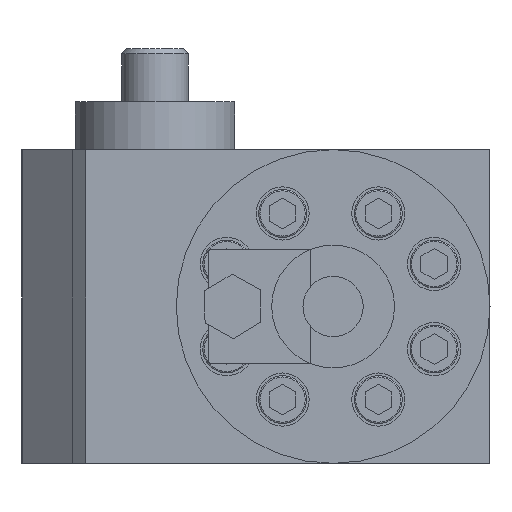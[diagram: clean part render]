
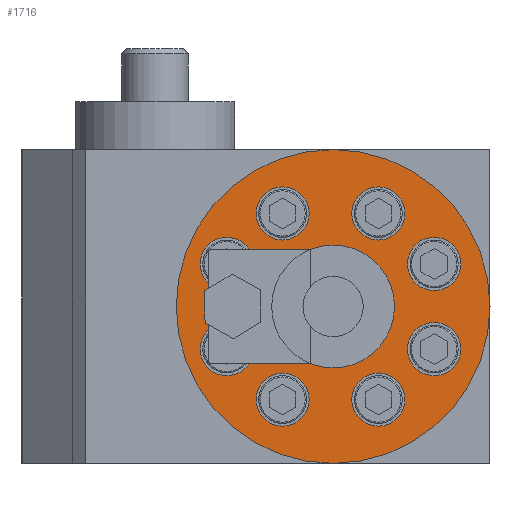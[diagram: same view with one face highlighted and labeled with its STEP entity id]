
A CAD part, left-side view. The second image highlights one B-rep face of the part: STEP entity #1716.
In plain terms, the highlighted planar face has unit normal (-1, 0, 0).
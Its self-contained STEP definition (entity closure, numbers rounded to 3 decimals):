
#1716=ADVANCED_FACE('',(#4839,#4840,#4841,#4842,#4843,#4844,#4845,#4846,
#4847),#2393,.F.);
#2393=PLANE('',#13497);
#4839=FACE_BOUND('',#5743,.T.);
#4840=FACE_BOUND('',#5744,.T.);
#4841=FACE_BOUND('',#5745,.T.);
#4842=FACE_BOUND('',#5746,.T.);
#4843=FACE_BOUND('',#5747,.T.);
#4844=FACE_BOUND('',#5748,.T.);
#4845=FACE_BOUND('',#5749,.T.);
#4846=FACE_BOUND('',#5750,.T.);
#4847=FACE_BOUND('',#5751,.T.);
#5743=EDGE_LOOP('',(#7731));
#5744=EDGE_LOOP('',(#7732));
#5745=EDGE_LOOP('',(#7733));
#5746=EDGE_LOOP('',(#7734));
#5747=EDGE_LOOP('',(#7735));
#5748=EDGE_LOOP('',(#7736));
#5749=EDGE_LOOP('',(#7737));
#5750=EDGE_LOOP('',(#7738));
#5751=EDGE_LOOP('',(#7739));
#7731=ORIENTED_EDGE('',*,*,#11447,.T.);
#7732=ORIENTED_EDGE('',*,*,#11448,.T.);
#7733=ORIENTED_EDGE('',*,*,#11449,.T.);
#7734=ORIENTED_EDGE('',*,*,#11450,.T.);
#7735=ORIENTED_EDGE('',*,*,#11451,.T.);
#7736=ORIENTED_EDGE('',*,*,#11452,.T.);
#7737=ORIENTED_EDGE('',*,*,#11453,.T.);
#7738=ORIENTED_EDGE('',*,*,#11454,.T.);
#7739=ORIENTED_EDGE('',*,*,#11445,.F.);
#10124=VERTEX_POINT('',#22202);
#10126=VERTEX_POINT('',#22207);
#10127=VERTEX_POINT('',#22209);
#10128=VERTEX_POINT('',#22211);
#10129=VERTEX_POINT('',#22213);
#10130=VERTEX_POINT('',#22215);
#10131=VERTEX_POINT('',#22217);
#10132=VERTEX_POINT('',#22219);
#10133=VERTEX_POINT('',#22221);
#11445=EDGE_CURVE('',#10124,#10124,#12671,.T.);
#11447=EDGE_CURVE('',#10126,#10126,#12673,.T.);
#11448=EDGE_CURVE('',#10127,#10127,#12674,.T.);
#11449=EDGE_CURVE('',#10128,#10128,#12675,.T.);
#11450=EDGE_CURVE('',#10129,#10129,#12676,.T.);
#11451=EDGE_CURVE('',#10130,#10130,#12677,.T.);
#11452=EDGE_CURVE('',#10131,#10131,#12678,.T.);
#11453=EDGE_CURVE('',#10132,#10132,#12679,.T.);
#11454=EDGE_CURVE('',#10133,#10133,#12680,.T.);
#12671=CIRCLE('',#13486,59.);
#12673=CIRCLE('',#13489,10.);
#12674=CIRCLE('',#13490,10.);
#12675=CIRCLE('',#13491,10.);
#12676=CIRCLE('',#13492,10.);
#12677=CIRCLE('',#13493,10.);
#12678=CIRCLE('',#13494,10.);
#12679=CIRCLE('',#13495,10.);
#12680=CIRCLE('',#13496,10.);
#13486=AXIS2_PLACEMENT_3D('',#22201,#15695,#15696);
#13489=AXIS2_PLACEMENT_3D('',#22206,#15701,#15702);
#13490=AXIS2_PLACEMENT_3D('',#22208,#15703,#15704);
#13491=AXIS2_PLACEMENT_3D('',#22210,#15705,#15706);
#13492=AXIS2_PLACEMENT_3D('',#22212,#15707,#15708);
#13493=AXIS2_PLACEMENT_3D('',#22214,#15709,#15710);
#13494=AXIS2_PLACEMENT_3D('',#22216,#15711,#15712);
#13495=AXIS2_PLACEMENT_3D('',#22218,#15713,#15714);
#13496=AXIS2_PLACEMENT_3D('',#22220,#15715,#15716);
#13497=AXIS2_PLACEMENT_3D('',#22222,#15717,#15718);
#15695=DIRECTION('',(1.,0.,0.));
#15696=DIRECTION('',(0.,0.,-1.));
#15701=DIRECTION('',(1.,0.,0.));
#15702=DIRECTION('',(0.,0.,1.));
#15703=DIRECTION('',(1.,0.,0.));
#15704=DIRECTION('',(0.,0.,1.));
#15705=DIRECTION('',(1.,0.,0.));
#15706=DIRECTION('',(0.,0.,1.));
#15707=DIRECTION('',(1.,0.,0.));
#15708=DIRECTION('',(0.,0.,1.));
#15709=DIRECTION('',(1.,0.,0.));
#15710=DIRECTION('',(0.,0.,1.));
#15711=DIRECTION('',(1.,0.,0.));
#15712=DIRECTION('',(0.,0.,1.));
#15713=DIRECTION('',(1.,0.,0.));
#15714=DIRECTION('',(0.,0.,1.));
#15715=DIRECTION('',(1.,0.,0.));
#15716=DIRECTION('',(0.,0.,1.));
#15717=DIRECTION('',(1.,0.,0.));
#15718=DIRECTION('',(0.,1.,0.));
#22201=CARTESIAN_POINT('',(-129.529,-37.705,59.));
#22202=CARTESIAN_POINT('',(-129.529,-37.705,0.));
#22206=CARTESIAN_POINT('',(-129.529,-18.705,24.));
#22207=CARTESIAN_POINT('',(-129.529,-18.705,34.));
#22208=CARTESIAN_POINT('',(-129.529,-18.705,94.));
#22209=CARTESIAN_POINT('',(-129.529,-18.705,104.));
#22210=CARTESIAN_POINT('',(-129.529,-54.705,94.));
#22211=CARTESIAN_POINT('',(-129.529,-54.705,104.));
#22212=CARTESIAN_POINT('',(-129.529,-54.705,24.));
#22213=CARTESIAN_POINT('',(-129.529,-54.705,34.));
#22214=CARTESIAN_POINT('',(-129.529,2.295,43.));
#22215=CARTESIAN_POINT('',(-129.529,2.295,53.));
#22216=CARTESIAN_POINT('',(-129.529,2.295,75.));
#22217=CARTESIAN_POINT('',(-129.529,2.295,85.));
#22218=CARTESIAN_POINT('',(-129.529,-75.705,75.));
#22219=CARTESIAN_POINT('',(-129.529,-75.705,85.));
#22220=CARTESIAN_POINT('',(-129.529,-75.705,43.));
#22221=CARTESIAN_POINT('',(-129.529,-75.705,53.));
#22222=CARTESIAN_POINT('',(-129.529,-37.705,59.));
